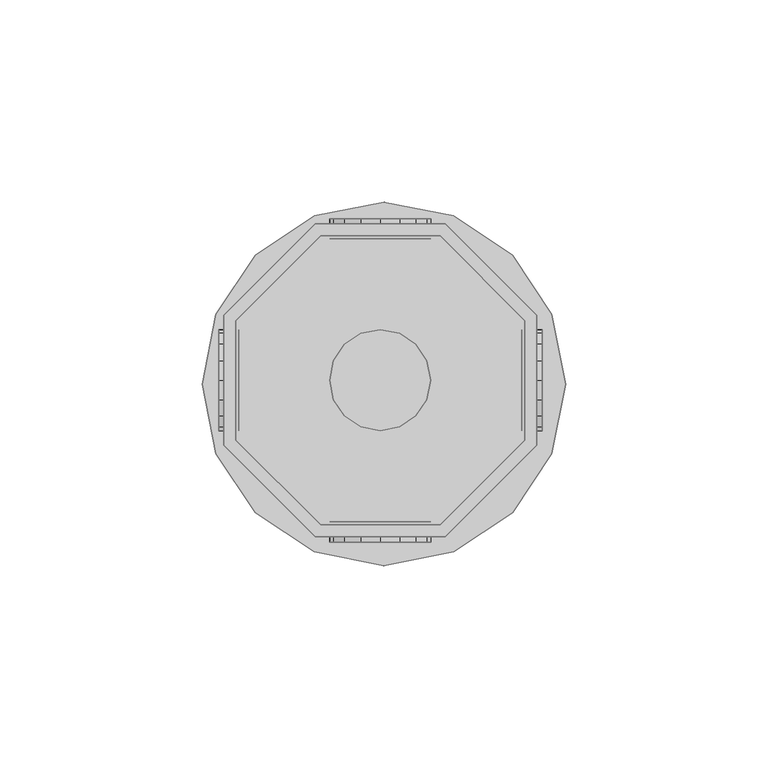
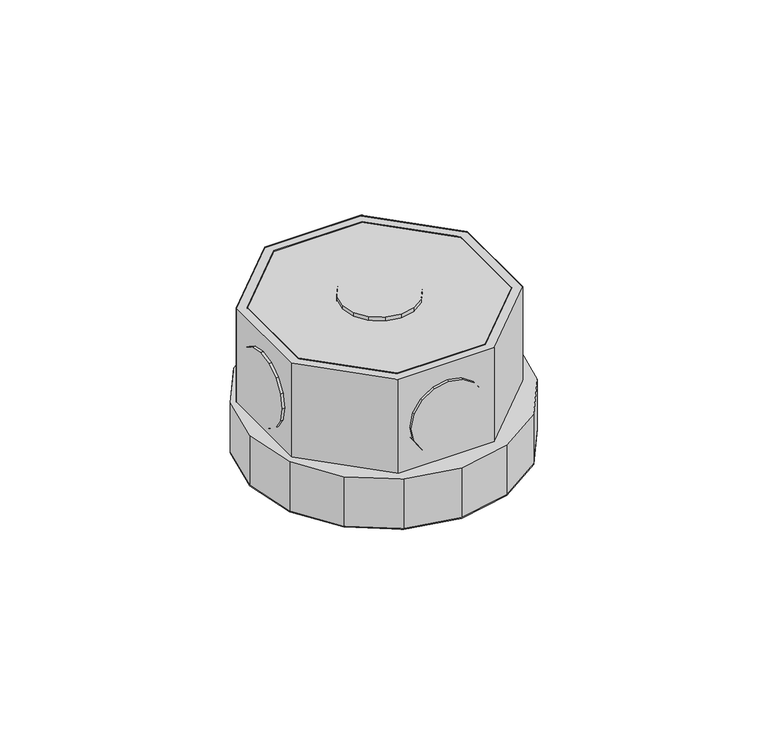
"""IFC4 building model written with IfcOpenShell, lengths in millimetres: light fixture geometry,  212368 :  212368."""

import ifcopenshell
import ifcopenshell.guid

model = None  # the IFC model being written
_history = None  # IfcOwnerHistory: only IFC2X3 demands one
_inside = {}  # id of a spatial element -> (the spatial element, [elements in it])
_under = {}  # id of a project, library or spatial element -> (it, [spatial elements below it])
_declared = {}  # id of a project -> (the project, [libraries it declares])
_typed = {}  # id of a type object -> (the type object, [elements of that type])
_made_of = {}  # id of a material, layer set ... -> (it, [elements and type objects made of it])


def new_model(schema):
    """Start an empty IFC model of exactly this schema.

    Asked for "IFC4X3", IfcOpenShell would pick the latest addendum, in which some entities
    have other attributes; the version numbers below select the first issue.
    IFC2X3 requires an IfcOwnerHistory on every rooted entity: one is made here for all.
    """
    global model, _history
    if schema == "IFC4X3":
        model = ifcopenshell.file(schema_version=(4, 3, 0, 0))
    else:
        model = ifcopenshell.file(schema=schema)
    _inside.clear()
    _under.clear()
    _declared.clear()
    _typed.clear()
    _made_of.clear()
    _history = None
    if model.schema == "IFC2X3":
        org = make("IfcOrganization", Name="unknown")
        user = make(
            "IfcPersonAndOrganization",
            ThePerson=make("IfcPerson", FamilyName="unknown"),
            TheOrganization=org,
        )
        app = make(
            "IfcApplication",
            ApplicationDeveloper=org,
            Version="unknown",
            ApplicationFullName="unknown",
            ApplicationIdentifier="unknown",
        )
        _history = make(
            "IfcOwnerHistory",
            OwningUser=user,
            OwningApplication=app,
            ChangeAction="ADDED",
            CreationDate=0,
        )
    return model


def make(cls, **values):
    """One entity of the class cls with the attributes given. An attribute that is None is left unset."""
    return model.create_entity(
        cls, **{name: value for name, value in values.items() if value is not None}
    )


def rooted(cls, **values):
    """An entity with a GlobalId (a new one), such as an element, a storey or a relation."""
    return make(cls, GlobalId=ifcopenshell.guid.new(), OwnerHistory=_history, **values)


def si_unit(unit_type, name, prefix=None):
    """IfcSIUnit, for example si_unit("LENGTHUNIT", "METRE", prefix="MILLI")."""
    return make("IfcSIUnit", UnitType=unit_type, Prefix=prefix, Name=name)


def assignment(units):
    """IfcUnitAssignment: the units of a project."""
    return None if units is None else make("IfcUnitAssignment", Units=units)


def point(xyz):
    """IfcCartesianPoint."""
    return None if xyz is None else make("IfcCartesianPoint", Coordinates=xyz)


def direction(xyz):
    """IfcDirection."""
    return None if xyz is None else make("IfcDirection", DirectionRatios=xyz)


def frame(location, z_axis=None, x_axis=None):
    """IfcAxis2Placement3D, a coordinate frame: its origin and axes. An axis left out is left unset."""
    return make(
        "IfcAxis2Placement3D",
        Location=point(location),
        Axis=direction(z_axis),
        RefDirection=direction(x_axis),
    )


def origin():
    """The frame at (0, 0, 0) with its axes left unset."""
    return frame((0.0, 0.0, 0.0))


def place(relative_to, where):
    """IfcLocalPlacement: puts the frame where relative to a parent placement (None: the world)."""
    return make(
        "IfcLocalPlacement", PlacementRelTo=relative_to, RelativePlacement=where
    )


def context(
    kind, dimensions, precision=None, world=None, true_north=None, identifier=None
):
    """IfcGeometricRepresentationContext, for example the 3D "Model" context."""
    return make(
        "IfcGeometricRepresentationContext",
        ContextIdentifier=identifier,
        ContextType=kind,
        CoordinateSpaceDimension=dimensions,
        Precision=precision,
        WorldCoordinateSystem=world,
        TrueNorth=true_north,
    )


def project(units=None, contexts=None):
    """IfcProject with its units and contexts."""
    return rooted(
        "IfcProject",
        Name="project",
        RepresentationContexts=contexts,
        UnitsInContext=assignment(units),
    )


def spatial(cls, under=None, at=None, **own):
    """A site, building, storey or space (cls), placed at a placement, below another one or the project."""
    s = rooted(cls, ObjectPlacement=at, **own)
    if under is not None:
        _under.setdefault(under.id(), (under, []))[1].append(s)
    return s


def point_list(points):
    """IfcCartesianPointList2D or 3D."""
    cls = (
        "IfcCartesianPointList2D" if len(points[0]) == 2 else "IfcCartesianPointList3D"
    )
    return make(cls, CoordList=points)


def triangles(points, corners, closed=None, point_numbers=None):
    """IfcTriangulatedFaceSet: each triangle names its three corners, points numbered from 1."""
    return make(
        "IfcTriangulatedFaceSet",
        Coordinates=point_list(points),
        Closed=closed,
        CoordIndex=corners,
        PnIndex=point_numbers,
    )


def shape(context_of_items, identifier, shape_type, items):
    """IfcShapeRepresentation: the items that make up one representation, for example the "Body"."""
    return make(
        "IfcShapeRepresentation",
        ContextOfItems=context_of_items,
        RepresentationIdentifier=identifier,
        RepresentationType=shape_type,
        Items=items,
    )


def source(mapping_origin, context_of_items, identifier, shape_type, items):
    """IfcRepresentationMap: a shape defined once, which mapped items show again and again."""
    return make(
        "IfcRepresentationMap",
        MappingOrigin=mapping_origin,
        MappedRepresentation=shape(context_of_items, identifier, shape_type, items),
    )


def transform(
    local_origin,
    x_axis=None,
    y_axis=None,
    z_axis=None,
    scale=None,
    scale2=None,
    scale3=None,
    uniform=True,
):
    """IfcCartesianTransformationOperator3D, or its non-uniform kind. x_axis, y_axis, z_axis: its Axis1, 2, 3."""
    if uniform:
        return make(
            "IfcCartesianTransformationOperator3D",
            Axis1=direction(x_axis),
            Axis2=direction(y_axis),
            LocalOrigin=point(local_origin),
            Scale=scale,
            Axis3=direction(z_axis),
        )
    return make(
        "IfcCartesianTransformationOperator3DnonUniform",
        Axis1=direction(x_axis),
        Axis2=direction(y_axis),
        LocalOrigin=point(local_origin),
        Scale=scale,
        Axis3=direction(z_axis),
        Scale2=scale2,
        Scale3=scale3,
    )


def mapped(mapping_source, mapping_target):
    """IfcMappedItem: shows the shape of a source again, moved by a transform."""
    return make(
        "IfcMappedItem", MappingSource=mapping_source, MappingTarget=mapping_target
    )


def made_of(thing, what):
    """Note that an element or type object is made of a material, layer set ...; save() writes the relation."""
    if what is not None:
        _made_of.setdefault(what.id(), (what, []))[1].append(thing)
    return thing


def element(
    cls,
    number,
    at=None,
    inside=None,
    cuts=None,
    type_object=None,
    material=None,
    context=None,
    identifier="Body",
    shape_type=None,
    held_by="IfcProductDefinitionShape",
    body=None,
    shapes=None,
    **own,
):
    """One element of the class cls, such as IfcWall. Its Tag is "e" and its number.

    at: its placement. inside: the storey or other place that contains it. cuts: it is an
    opening in that element (IfcRelVoidsElement). A single representation is given by context,
    identifier, shape_type and body (its items); several are given by shapes. held_by: the class
    of the entity that holds the representations. save() writes the other relations.
    """
    e = rooted(cls, Tag="e%d" % number, ObjectPlacement=at, **own)
    if body is not None:
        shapes = [shape(context, identifier, shape_type, body)]
    if shapes is not None:
        e.Representation = make(held_by, Representations=shapes)
    if inside is not None:
        _inside.setdefault(inside.id(), (inside, []))[1].append(e)
    if cuts is not None:
        rooted(
            "IfcRelVoidsElement", RelatingBuildingElement=cuts, RelatedOpeningElement=e
        )
    if type_object is not None:
        _typed.setdefault(type_object.id(), (type_object, []))[1].append(e)
    return made_of(e, material)


def aggregate(whole, parts):
    """IfcRelAggregates: a whole, such as a stair, and the parts it consists of."""
    return rooted("IfcRelAggregates", RelatingObject=whole, RelatedObjects=parts)


def save(model, path):
    """Write the relations noted so far, then the file.

    IfcRelAggregates (storeys below a building ...), IfcRelContainedInSpatialStructure (elements
    in a storey), IfcRelDefinesByType, IfcRelAssociatesMaterial and IfcRelDeclares: one each for
    every whole, place, type object, material and project.
    """
    for whole, parts in _under.values():
        aggregate(whole, parts)
    for where, things in _inside.values():
        rooted(
            "IfcRelContainedInSpatialStructure",
            RelatedElements=things,
            RelatingStructure=where,
        )
    for kind, things in _typed.values():
        rooted("IfcRelDefinesByType", RelatedObjects=things, RelatingType=kind)
    for what, things in _made_of.values():
        rooted("IfcRelAssociatesMaterial", RelatedObjects=things, RelatingMaterial=what)
    for by, libraries in _declared.values():
        rooted("IfcRelDeclares", RelatingContext=by, RelatedDefinitions=libraries)
    model.write(path)


def light_fixture_bb7ce103(model_context):
    return source(origin(), model_context, "Body", "Tessellation", [
        triangles([(19995.0004578, 12407.9996063, 2924.5999741), (19965.399939, 12407.9996063, 2975.400071), (19965.399939, 12407.9996063, 2924.5999741), (19995.0004578, 12407.9996063, 2975.400071), (19996.2003845, 12333.4995026, 2924.5999741), (19964.1000183, 12333.4995026, 2975.400071), (19964.1000183, 12333.4995026, 2924.5999741), (19996.2003845, 12333.4995026, 2975.400071), (19944.3988953, 12386.9997253, 2975.400071), (19944.3988953, 12386.9997253, 2924.5999741), (20018.898999, 12356.2004425, 2924.5999741), (20018.898999, 12356.2004425, 2975.400071), (19944.3988953, 12357.4003693, 2975.400071), (19944.3988953, 12357.4003693, 2924.5999741), (20018.898999, 12388.299646, 2924.5999741), (20018.898999, 12388.299646, 2975.400071), (19965.399939, 12336.5004822, 2975.400071), (19965.399939, 12336.5004822, 2924.5999741), (19996.2003845, 12410.9994232, 2924.5999741), (19996.2003845, 12410.9994232, 2975.400071), (19995.0004578, 12336.5004822, 2924.5999741), (19995.0004578, 12336.5004822, 2975.400071), (19964.1000183, 12410.9994232, 2975.400071), (19964.1000183, 12410.9994232, 2924.5999741), (20015.8991821, 12357.4003693, 2924.5999741), (20015.8991821, 12357.4003693, 2975.400071), (19941.3990784, 12388.299646, 2975.400071), (19941.3990784, 12388.299646, 2924.5999741), (19941.3990784, 12356.2004425, 2975.400071), (20015.8991821, 12386.9997253, 2975.400071), (20015.8991821, 12386.9997253, 2924.5999741), (19941.3990784, 12356.2004425, 2924.5999741), (19944.3988953, 12357.4003693, 2972.3999634), (19965.399939, 12336.5004822, 2972.3999634), (19995.0004578, 12336.5004822, 2972.3999634), (20015.8991821, 12357.4003693, 2972.3999634), (20015.8991821, 12386.9997253, 2972.3999634), (19995.0004578, 12407.9996063, 2972.3999634), (19965.399939, 12407.9996063, 2972.3999634), (19944.3988953, 12386.9997253, 2972.3999634), (19941.3990784, 12388.299646, 2942.4000504), (19964.1000183, 12410.9994232, 2942.4000504), (19996.2003845, 12410.9994232, 2942.4000504), (20018.898999, 12388.299646, 2942.4000504), (20018.898999, 12356.2004425, 2942.4000504), (19996.2003845, 12333.4995026, 2942.4000504), (19964.1000183, 12333.4995026, 2942.4000504), (19941.3990784, 12356.2004425, 2942.4000504), (19963.8000366, 12329.7997284, 2942.4000504), (19939.4991943, 12354.1005707, 2942.4000504), (19949.2009277, 12339.5002991, 2942.4000504), (19936.0994019, 12371.2995209, 2942.4000504), (19939.4991943, 12388.5996277, 2942.4000504), (19949.2009277, 12403.1998993, 2942.4000504), (19963.8000366, 12412.90047, 2942.4000504), (19981.0989807, 12416.3002625, 2942.4000504), (19998.3002563, 12412.90047, 2942.4000504), (20022.6010986, 12388.5996277, 2942.4000504), (20012.8993652, 12403.1998993, 2942.4000504), (19981.0989807, 12326.299942, 2942.4000504), (19998.3002563, 12329.7997284, 2942.4000504), (20012.8993652, 12339.5002991, 2942.4000504), (20022.6010986, 12354.1005707, 2942.4000504), (20026.100885, 12371.2995209, 2942.4000504), (19939.4991943, 12354.1005707, 2924.5999741), (19963.8000366, 12329.7997284, 2924.5999741), (19949.2009277, 12339.5002991, 2924.5999741), (19936.0994019, 12371.2995209, 2924.5999741), (19939.4991943, 12388.5996277, 2924.5999741), (19949.2009277, 12403.1998993, 2924.5999741), (19963.8000366, 12412.90047, 2924.5999741), (19981.0989807, 12416.3002625, 2924.5999741), (19998.3002563, 12412.90047, 2924.5999741), (20022.6010986, 12388.5996277, 2924.5999741), (20012.8993652, 12403.1998993, 2924.5999741), (19981.0989807, 12326.299942, 2924.5999741), (19998.3002563, 12329.7997284, 2924.5999741), (20012.8993652, 12339.5002991, 2924.5999741), (20022.6010986, 12354.1005707, 2924.5999741), (20026.100885, 12371.2995209, 2924.5999741), (19968.5997437, 12412.2005127, 2952.6000092), (19975.3993286, 12412.2005127, 2945.9001274), (19971.2995789, 12412.2005127, 2948.5999626), (19967.6997986, 12412.2005127, 2957.4000069), (19980.1990356, 12412.2005127, 2944.8998978), (19968.5997437, 12412.2005127, 2962.2000046), (19985.0010681, 12412.2005127, 2945.9001274), (19971.2995789, 12412.2005127, 2966.2000511), (19989.000824, 12412.2005127, 2948.5999626), (19975.3993286, 12412.2005127, 2968.8998863), (19991.7006592, 12412.2005127, 2952.6000092), (19980.1990356, 12412.2005127, 2969.900116), (19992.7005981, 12412.2005127, 2957.4000069), (19985.0010681, 12412.2005127, 2968.8998863), (19991.7006592, 12412.2005127, 2962.2000046), (19989.000824, 12412.2005127, 2966.2000511), (19975.3993286, 12407.1996552, 2945.9001274), (19968.5997437, 12407.1996552, 2952.6000092), (19971.2995789, 12407.1996552, 2948.5999626), (19980.1990356, 12407.1996552, 2944.8998978), (19967.6997986, 12407.1996552, 2957.4000069), (19985.0010681, 12407.1996552, 2945.9001274), (19968.5997437, 12407.1996552, 2962.2000046), (19989.000824, 12407.1996552, 2948.5999626), (19971.2995789, 12407.1996552, 2966.2000511), (19975.3993286, 12407.1996552, 2968.8998863), (19991.7006592, 12407.1996552, 2952.6000092), (19980.1990356, 12407.1996552, 2969.900116), (19992.7005981, 12407.1996552, 2957.4000069), (19985.0010681, 12407.1996552, 2968.8998863), (19991.7006592, 12407.1996552, 2962.2000046), (19989.000824, 12407.1996552, 2966.2000511), (19968.5997437, 12337.2004395, 2952.6000092), (19975.3993286, 12337.2004395, 2945.9001274), (19971.2995789, 12337.2004395, 2948.5999626), (19967.6997986, 12337.2004395, 2957.4000069), (19980.1990356, 12337.2004395, 2944.8998978), (19968.5997437, 12337.2004395, 2962.2000046), (19985.0010681, 12337.2004395, 2945.9001274), (19971.2995789, 12337.2004395, 2966.2000511), (19989.000824, 12337.2004395, 2948.5999626), (19975.3993286, 12337.2004395, 2968.8998863), (19991.7006592, 12337.2004395, 2952.6000092), (19980.1990356, 12337.2004395, 2969.900116), (19992.7005981, 12337.2004395, 2957.4000069), (19985.0010681, 12337.2004395, 2968.8998863), (19991.7006592, 12337.2004395, 2962.2000046), (19989.000824, 12337.2004395, 2966.2000511), (19975.3993286, 12332.1995819, 2945.9001274), (19968.5997437, 12332.1995819, 2952.6000092), (19971.2995789, 12332.1995819, 2948.5999626), (19980.1990356, 12332.1995819, 2944.8998978), (19967.6997986, 12332.1995819, 2957.4000069), (19985.0010681, 12332.1995819, 2945.9001274), (19968.5997437, 12332.1995819, 2962.2000046), (19989.000824, 12332.1995819, 2948.5999626), (19971.2995789, 12332.1995819, 2966.2000511), (19975.3993286, 12332.1995819, 2968.8998863), (19991.7006592, 12332.1995819, 2952.6000092), (19980.1990356, 12332.1995819, 2969.900116), (19992.7005981, 12332.1995819, 2957.4000069), (19985.0010681, 12332.1995819, 2968.8998863), (19991.7006592, 12332.1995819, 2962.2000046), (19989.000824, 12332.1995819, 2966.2000511), (19945.1988464, 12367.3997589, 2945.9001274), (19945.1988464, 12360.7001678, 2952.6000092), (19945.1988464, 12363.4000031, 2948.5999626), (19945.1988464, 12372.1994659, 2944.8998978), (19945.1988464, 12359.7002289, 2957.4000069), (19945.1988464, 12377.0003357, 2945.9001274), (19945.1988464, 12360.7001678, 2962.2000046), (19945.1988464, 12381.1000854, 2948.5999626), (19945.1988464, 12363.4000031, 2966.2000511), (19945.1988464, 12367.3997589, 2968.8998863), (19945.1988464, 12383.7999207, 2952.6000092), (19945.1988464, 12372.1994659, 2969.900116), (19945.1988464, 12384.6998657, 2957.4000069), (19945.1988464, 12377.0003357, 2968.8998863), (19945.1988464, 12383.7999207, 2962.2000046), (19945.1988464, 12381.1000854, 2966.2000511), (19940.1991516, 12360.7001678, 2952.6000092), (19940.1991516, 12367.3997589, 2945.9001274), (19940.1991516, 12363.4000031, 2948.5999626), (19940.1991516, 12359.7002289, 2957.4000069), (19940.1991516, 12372.1994659, 2944.8998978), (19940.1991516, 12360.7001678, 2962.2000046), (19940.1991516, 12377.0003357, 2945.9001274), (19940.1991516, 12363.4000031, 2966.2000511), (19940.1991516, 12381.1000854, 2948.5999626), (19940.1991516, 12367.3997589, 2968.8998863), (19940.1991516, 12383.7999207, 2952.6000092), (19940.1991516, 12372.1994659, 2969.900116), (19940.1991516, 12384.6998657, 2957.4000069), (19940.1991516, 12377.0003357, 2968.8998863), (19940.1991516, 12383.7999207, 2962.2000046), (19940.1991516, 12381.1000854, 2966.2000511), (20020.1989197, 12367.3997589, 2945.9001274), (20020.1989197, 12360.7001678, 2952.6000092), (20020.1989197, 12363.4000031, 2948.5999626), (20020.1989197, 12372.1994659, 2944.8998978), (20020.1989197, 12359.7002289, 2957.4000069), (20020.1989197, 12377.0003357, 2945.9001274), (20020.1989197, 12360.7001678, 2962.2000046), (20020.1989197, 12381.1000854, 2948.5999626), (20020.1989197, 12363.4000031, 2966.2000511), (20020.1989197, 12367.3997589, 2968.8998863), (20020.1989197, 12383.7999207, 2952.6000092), (20020.1989197, 12372.1994659, 2969.900116), (20020.1989197, 12384.6998657, 2957.4000069), (20020.1989197, 12377.0003357, 2968.8998863), (20020.1989197, 12383.7999207, 2962.2000046), (20020.1989197, 12381.1000854, 2966.2000511), (20015.1992249, 12360.7001678, 2952.6000092), (20015.1992249, 12367.3997589, 2945.9001274), (20015.1992249, 12363.4000031, 2948.5999626), (20015.1992249, 12359.7002289, 2957.4000069), (20015.1992249, 12372.1994659, 2944.8998978), (20015.1992249, 12360.7001678, 2962.2000046), (20015.1992249, 12377.0003357, 2945.9001274), (20015.1992249, 12363.4000031, 2966.2000511), (20015.1992249, 12381.1000854, 2948.5999626), (20015.1992249, 12367.3997589, 2968.8998863), (20015.1992249, 12383.7999207, 2952.6000092), (20015.1992249, 12372.1994659, 2969.900116), (20015.1992249, 12384.6998657, 2957.4000069), (20015.1992249, 12377.0003357, 2968.8998863), (20015.1992249, 12383.7999207, 2962.2000046), (20015.1992249, 12381.1000854, 2966.2000511), (19975.3993286, 12360.7001678, 2976.9999733), (19968.5997437, 12367.3997589, 2976.9999733), (19971.2995789, 12363.4000031, 2976.9999733), (19967.6997986, 12372.1994659, 2976.9999733), (19980.1990356, 12359.7002289, 2976.9999733), (19968.5997437, 12377.0003357, 2976.9999733), (19985.0010681, 12360.7001678, 2976.9999733), (19971.2995789, 12381.1000854, 2976.9999733), (19989.000824, 12363.4000031, 2976.9999733), (19975.3993286, 12383.7999207, 2976.9999733), (19991.7006592, 12367.3997589, 2976.9999733), (19980.1990356, 12384.6998657, 2976.9999733), (19992.7005981, 12372.1994659, 2976.9999733), (19985.0010681, 12383.7999207, 2976.9999733), (19991.7006592, 12377.0003357, 2976.9999733), (19989.000824, 12381.1000854, 2976.9999733), (19968.5997437, 12367.3997589, 2971.9999878), (19975.3993286, 12360.7001678, 2971.9999878), (19971.2995789, 12363.4000031, 2971.9999878), (19967.6997986, 12372.1994659, 2971.9999878), (19980.1990356, 12359.7002289, 2971.9999878), (19968.5997437, 12377.0003357, 2971.9999878), (19985.0010681, 12360.7001678, 2971.9999878), (19971.2995789, 12381.1000854, 2971.9999878), (19989.000824, 12363.4000031, 2971.9999878), (19975.3993286, 12383.7999207, 2971.9999878), (19991.7006592, 12367.3997589, 2971.9999878), (19980.1990356, 12384.6998657, 2971.9999878), (19992.7005981, 12372.1994659, 2971.9999878), (19985.0010681, 12383.7999207, 2971.9999878), (19991.7006592, 12377.0003357, 2971.9999878), (19989.000824, 12381.1000854, 2971.9999878)], [[1, 2, 3], [2, 1, 4], [5, 6, 7], [6, 5, 8], [3, 9, 10], [9, 3, 2], [11, 8, 5], [8, 11, 12], [10, 13, 14], [13, 10, 9], [15, 12, 11], [12, 15, 16], [14, 17, 18], [17, 14, 13], [19, 16, 15], [16, 19, 20], [17, 21, 18], [21, 17, 22], [23, 19, 24], [19, 23, 20], [22, 25, 21], [25, 22, 26], [27, 24, 28], [24, 27, 23], [6, 13, 29], [29, 13, 27], [27, 13, 9], [27, 9, 23], [23, 9, 2], [23, 2, 4], [23, 4, 20], [20, 4, 30], [8, 17, 6], [6, 17, 13], [17, 8, 22], [12, 22, 8], [22, 12, 26], [30, 26, 12], [16, 30, 12], [20, 30, 16], [30, 1, 31], [1, 30, 4], [6, 32, 7], [32, 6, 29], [32, 14, 7], [28, 14, 32], [14, 28, 10], [24, 10, 28], [10, 24, 3], [1, 3, 24], [19, 1, 24], [31, 1, 19], [7, 18, 5], [14, 18, 7], [5, 18, 21], [5, 21, 11], [11, 21, 25], [11, 25, 31], [11, 31, 15], [15, 31, 19], [26, 31, 25], [31, 26, 30], [29, 28, 32], [28, 29, 27], [17, 33, 34], [33, 17, 13], [35, 17, 34], [17, 35, 22], [36, 22, 35], [22, 36, 26], [37, 26, 36], [26, 37, 30], [38, 30, 37], [30, 38, 4], [2, 38, 39], [38, 2, 4], [17, 9, 13], [9, 17, 22], [9, 22, 2], [2, 22, 26], [2, 26, 4], [4, 26, 30], [13, 40, 33], [40, 13, 9], [40, 34, 33], [35, 34, 40], [35, 40, 39], [35, 39, 36], [36, 39, 38], [36, 38, 37], [9, 39, 40], [39, 9, 2], [24, 41, 28], [41, 24, 42], [19, 42, 24], [42, 19, 43], [44, 19, 15], [19, 44, 43], [45, 15, 11], [15, 45, 44], [46, 11, 5], [11, 46, 45], [47, 5, 7], [5, 47, 46], [32, 47, 7], [47, 32, 48], [28, 48, 32], [48, 28, 41], [49, 50, 51], [48, 50, 49], [50, 48, 52], [41, 52, 48], [52, 41, 53], [53, 41, 54], [42, 54, 41], [54, 42, 55], [55, 42, 43], [55, 43, 56], [56, 43, 57], [57, 43, 44], [57, 44, 58], [57, 58, 59], [47, 49, 60], [49, 47, 48], [47, 60, 46], [61, 46, 60], [46, 61, 62], [46, 62, 45], [45, 62, 63], [44, 45, 63], [44, 63, 64], [44, 64, 58], [65, 66, 67], [66, 65, 32], [68, 32, 65], [32, 68, 28], [28, 68, 69], [70, 28, 69], [28, 70, 24], [71, 24, 70], [19, 24, 71], [19, 71, 72], [73, 19, 72], [19, 73, 15], [74, 15, 73], [74, 73, 75], [76, 66, 7], [32, 7, 66], [5, 76, 7], [76, 5, 77], [77, 5, 78], [11, 78, 5], [78, 11, 79], [79, 11, 15], [79, 15, 80], [80, 15, 74], [57, 75, 73], [75, 57, 59], [56, 73, 72], [73, 56, 57], [55, 72, 71], [72, 55, 56], [54, 71, 70], [71, 54, 55], [53, 70, 69], [70, 53, 54], [52, 69, 68], [69, 52, 53], [50, 68, 65], [68, 50, 52], [51, 65, 67], [65, 51, 50], [66, 51, 67], [51, 66, 49], [76, 49, 66], [49, 76, 60], [77, 60, 76], [60, 77, 61], [78, 61, 77], [61, 78, 62], [79, 62, 78], [62, 79, 63], [80, 63, 79], [63, 80, 64], [75, 58, 74], [58, 75, 59], [74, 64, 80], [64, 74, 58], [81, 82, 83], [82, 81, 84], [85, 82, 84], [85, 84, 86], [87, 85, 86], [87, 86, 88], [87, 88, 89], [89, 88, 90], [89, 90, 91], [91, 90, 92], [91, 92, 93], [93, 92, 94], [93, 94, 95], [95, 94, 96], [97, 98, 99], [98, 97, 100], [101, 98, 100], [101, 100, 102], [103, 101, 102], [103, 102, 104], [103, 104, 105], [105, 104, 106], [106, 104, 107], [106, 107, 108], [108, 107, 109], [108, 109, 110], [110, 109, 111], [110, 111, 112], [87, 104, 102], [104, 87, 89], [85, 102, 100], [102, 85, 87], [82, 100, 97], [100, 82, 85], [83, 97, 99], [97, 83, 82], [98, 83, 99], [83, 98, 81], [101, 81, 98], [81, 101, 84], [103, 84, 101], [84, 103, 86], [105, 86, 103], [86, 105, 88], [106, 88, 105], [88, 106, 90], [108, 90, 106], [90, 108, 92], [110, 92, 108], [92, 110, 94], [112, 94, 110], [94, 112, 96], [95, 112, 111], [112, 95, 96], [93, 111, 109], [111, 93, 95], [89, 107, 104], [107, 89, 91], [91, 109, 107], [109, 91, 93], [113, 114, 115], [114, 113, 116], [117, 114, 116], [117, 116, 118], [119, 117, 118], [119, 118, 120], [119, 120, 121], [121, 120, 122], [121, 122, 123], [123, 122, 124], [123, 124, 125], [125, 124, 126], [125, 126, 127], [127, 126, 128], [129, 130, 131], [130, 129, 132], [133, 130, 132], [133, 132, 134], [135, 133, 134], [135, 134, 136], [135, 136, 137], [137, 136, 138], [138, 136, 139], [138, 139, 140], [140, 139, 141], [140, 141, 142], [142, 141, 143], [142, 143, 144], [119, 136, 134], [136, 119, 121], [117, 134, 132], [134, 117, 119], [114, 132, 129], [132, 114, 117], [115, 129, 131], [129, 115, 114], [130, 115, 131], [115, 130, 113], [133, 113, 130], [113, 133, 116], [135, 116, 133], [116, 135, 118], [137, 118, 135], [118, 137, 120], [138, 120, 137], [120, 138, 122], [140, 122, 138], [122, 140, 124], [142, 124, 140], [124, 142, 126], [144, 126, 142], [126, 144, 128], [127, 144, 143], [144, 127, 128], [125, 143, 141], [143, 125, 127], [121, 139, 136], [139, 121, 123], [123, 141, 139], [141, 123, 125], [145, 146, 147], [146, 145, 148], [149, 146, 148], [149, 148, 150], [151, 149, 150], [151, 150, 152], [151, 152, 153], [153, 152, 154], [154, 152, 155], [154, 155, 156], [156, 155, 157], [156, 157, 158], [158, 157, 159], [158, 159, 160], [161, 162, 163], [162, 161, 164], [165, 162, 164], [165, 164, 166], [167, 165, 166], [167, 166, 168], [169, 167, 168], [169, 168, 170], [169, 170, 171], [171, 170, 172], [171, 172, 173], [173, 172, 174], [173, 174, 175], [175, 174, 176], [158, 176, 174], [176, 158, 160], [156, 174, 172], [174, 156, 158], [154, 172, 170], [172, 154, 156], [153, 170, 168], [170, 153, 154], [151, 168, 166], [168, 151, 153], [149, 166, 164], [166, 149, 151], [146, 164, 161], [164, 146, 149], [147, 161, 163], [161, 147, 146], [162, 147, 163], [147, 162, 145], [165, 145, 162], [145, 165, 148], [167, 148, 165], [148, 167, 150], [169, 150, 167], [150, 169, 152], [171, 152, 169], [152, 171, 155], [173, 155, 171], [155, 173, 157], [176, 159, 175], [159, 176, 160], [175, 157, 173], [157, 175, 159], [177, 178, 179], [178, 177, 180], [181, 178, 180], [181, 180, 182], [183, 181, 182], [183, 182, 184], [183, 184, 185], [185, 184, 186], [186, 184, 187], [186, 187, 188], [188, 187, 189], [188, 189, 190], [190, 189, 191], [190, 191, 192], [193, 194, 195], [194, 193, 196], [197, 194, 196], [197, 196, 198], [199, 197, 198], [199, 198, 200], [201, 199, 200], [201, 200, 202], [201, 202, 203], [203, 202, 204], [203, 204, 205], [205, 204, 206], [205, 206, 207], [207, 206, 208], [190, 208, 206], [208, 190, 192], [188, 206, 204], [206, 188, 190], [186, 204, 202], [204, 186, 188], [185, 202, 200], [202, 185, 186], [183, 200, 198], [200, 183, 185], [181, 198, 196], [198, 181, 183], [178, 196, 193], [196, 178, 181], [179, 193, 195], [193, 179, 178], [194, 179, 195], [179, 194, 177], [197, 177, 194], [177, 197, 180], [199, 180, 197], [180, 199, 182], [201, 182, 199], [182, 201, 184], [203, 184, 201], [184, 203, 187], [205, 187, 203], [187, 205, 189], [208, 191, 207], [191, 208, 192], [207, 189, 205], [189, 207, 191], [209, 210, 211], [212, 210, 209], [212, 209, 213], [214, 212, 213], [214, 213, 215], [216, 214, 215], [216, 215, 217], [216, 217, 218], [218, 217, 219], [218, 219, 220], [220, 219, 221], [220, 221, 222], [222, 221, 223], [222, 223, 224], [225, 226, 227], [226, 225, 228], [229, 226, 228], [229, 228, 230], [231, 229, 230], [231, 230, 232], [231, 232, 233], [233, 232, 234], [233, 234, 235], [235, 234, 236], [235, 236, 237], [237, 236, 238], [237, 238, 239], [239, 238, 240], [222, 240, 238], [240, 222, 224], [220, 238, 236], [238, 220, 222], [218, 236, 234], [236, 218, 220], [216, 234, 232], [234, 216, 218], [214, 232, 230], [232, 214, 216], [212, 230, 228], [230, 212, 214], [210, 228, 225], [228, 210, 212], [211, 225, 227], [225, 211, 210], [226, 211, 227], [211, 226, 209], [229, 209, 226], [209, 229, 213], [231, 213, 229], [213, 231, 215], [233, 215, 231], [215, 233, 217], [235, 217, 233], [217, 235, 219], [237, 219, 235], [219, 237, 221], [240, 223, 239], [223, 240, 224], [239, 221, 237], [221, 239, 223]], closed=False),
    ])


if __name__ == "__main__":
    model = new_model("IFC4")
    model_context = context("Model", 3, world=origin())
    ifc_project = project(units=[si_unit("LENGTHUNIT", "METRE", prefix="MILLI")], contexts=[model_context])
    site = spatial("IfcSite", under=ifc_project)
    building = spatial("IfcBuilding", under=site)
    placement = place(None, origin())
    light_fixture_shape = light_fixture_bb7ce103(model_context)
    element("IfcLightFixture", 1, ObjectType=" 212368 :  212368", at=placement, inside=building, context=model_context, shape_type="MappedRepresentation", body=[
        mapped(light_fixture_shape, transform((0.0, 0.0, 0.0), x_axis=(1.0, 0.0, 0.0), y_axis=(0.0, 1.0, 0.0), z_axis=(0.0, 0.0, 1.0))),
    ])
    save(model, "model.ifc")
